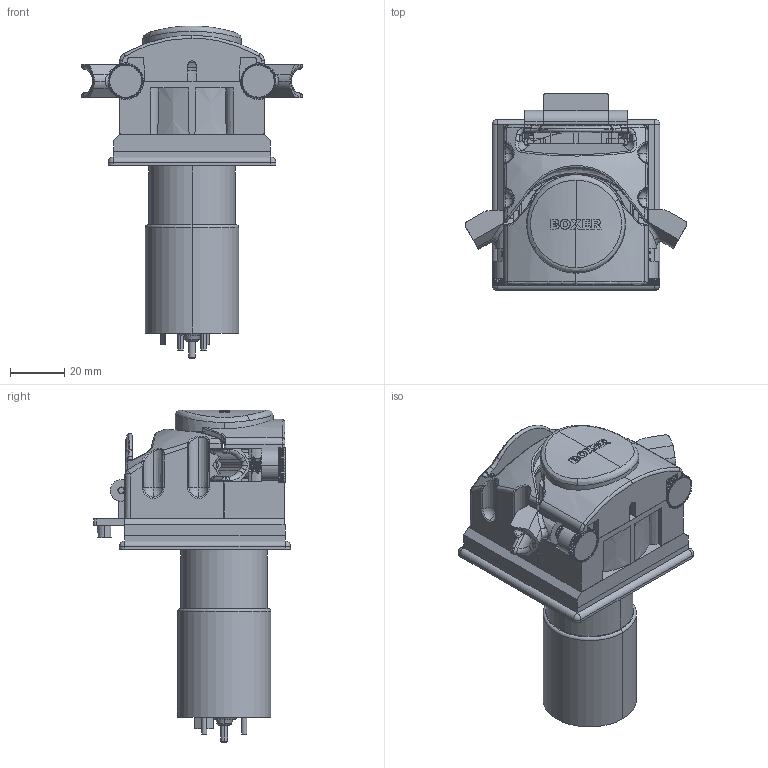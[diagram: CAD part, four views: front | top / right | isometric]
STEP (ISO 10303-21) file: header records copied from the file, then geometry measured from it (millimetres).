
FILE_DESCRIPTION (( 'STEP AP203' ), '1' );
FILE_NAME ('15QQ DC.STEP', '2015-12-26T18:43:10', ( 'USER' ), ( '' ), 'SwSTEP 2.0', 'SolidWorks 2014', '' );
FILE_SCHEMA (( 'CONFIG_CONTROL_DESIGN' ));
Length unit declared in the file: millimetre
Products named in the file (1): 15QQ DC
Bounding box: 81.81 x 72.75 x 122.6 mm (x, y, z)
Surface area: 46963.5 mm2 (no closed solid volume)
Topology: 0 solids, 25 shells, 1059 faces, 4186 edges, 3020 vertices
Faces by surface type: plane 345, bspline 280, cylinder 238, cone 138, torus 44, sphere 14
Entity records: 60505 total; most frequent: CARTESIAN_POINT 29290, ORIENTED_EDGE 6701, DIRECTION 5551, EDGE_CURVE 4182, VERTEX_POINT 3020, AXIS2_PLACEMENT_3D 1974, LINE 1603, VECTOR 1603
